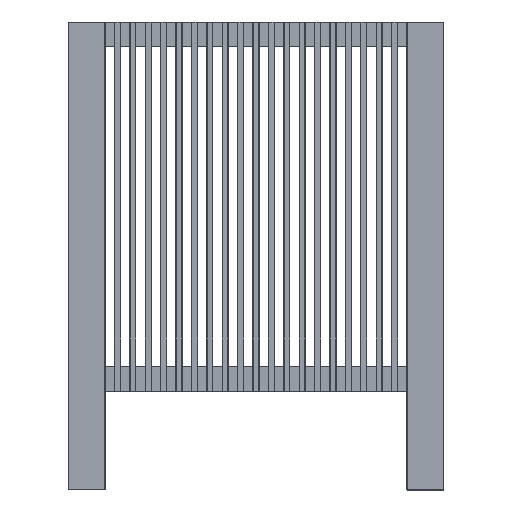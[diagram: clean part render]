
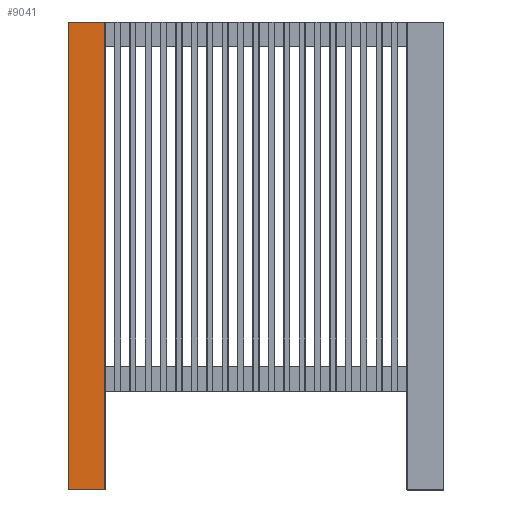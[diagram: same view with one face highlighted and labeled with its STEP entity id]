
A CAD part, top view. The second image highlights one B-rep face of the part: STEP entity #9041.
In plain terms, the highlighted planar face has unit normal (0, 0, 1).
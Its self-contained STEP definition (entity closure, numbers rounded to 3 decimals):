
#492 = AXIS2_PLACEMENT_3D ( 'NONE', #11524, #11525, #11526 ) ;
#1046 = EDGE_CURVE ( 'NONE', #4397, #4389, #10690, .T. ) ;
#1047 = EDGE_CURVE ( 'NONE', #4401, #4397, #10686, .T. ) ;
#1048 = EDGE_CURVE ( 'NONE', #7379, #4401, #10609, .T. ) ;
#1049 = EDGE_CURVE ( 'NONE', #4389, #7379, #10892, .T. ) ;
#1422 = EDGE_LOOP ( 'NONE', ( #2107, #2174, #2104, #2185 ) ) ;
#2104 = ORIENTED_EDGE ( 'NONE', *, *, #1047, .T. ) ;
#2107 = ORIENTED_EDGE ( 'NONE', *, *, #1049, .T. ) ;
#2174 = ORIENTED_EDGE ( 'NONE', *, *, #1048, .T. ) ;
#2185 = ORIENTED_EDGE ( 'NONE', *, *, #1046, .T. ) ;
#4101 = CARTESIAN_POINT ( 'NONE',  ( 0.5, 759.5, 60. ) ) ;
#4389 = VERTEX_POINT ( 'NONE', #9722 ) ;
#4397 = VERTEX_POINT ( 'NONE', #9710 ) ;
#4401 = VERTEX_POINT ( 'NONE', #9707 ) ;
#6945 = FACE_OUTER_BOUND ( 'NONE', #1422, .T. ) ;
#7379 = VERTEX_POINT ( 'NONE', #4101 ) ;
#7705 = CARTESIAN_POINT ( 'NONE',  ( 0., 759.5, 60. ) ) ;
#7711 = DIRECTION ( 'NONE',  ( -1., 0., 0. ) ) ;
#7713 = DIRECTION ( 'NONE',  ( 0., -1., 0. ) ) ;
#7714 = CARTESIAN_POINT ( 'NONE',  ( 0.5, 760., 60. ) ) ;
#7716 = CARTESIAN_POINT ( 'NONE',  ( 0., 0.5, 60. ) ) ;
#7717 = DIRECTION ( 'NONE',  ( 1., 0., 0. ) ) ;
#7719 = DIRECTION ( 'NONE',  ( 0., 1., 0. ) ) ;
#7720 = CARTESIAN_POINT ( 'NONE',  ( 59.5, 760., 60. ) ) ;
#9041 = ADVANCED_FACE ( 'NONE', ( #6945 ), #11523, .F. ) ;
#9707 = CARTESIAN_POINT ( 'NONE',  ( 0.5, 0.5, 60. ) ) ;
#9710 = CARTESIAN_POINT ( 'NONE',  ( 59.5, 0.5, 60. ) ) ;
#9722 = CARTESIAN_POINT ( 'NONE',  ( 59.5, 759.5, 60. ) ) ;
#10609 = LINE ( 'NONE', #7714, #10739 ) ;
#10622 = VECTOR ( 'NONE', #7719, 1000. ) ;
#10686 = LINE ( 'NONE', #7716, #10763 ) ;
#10690 = LINE ( 'NONE', #7720, #10622 ) ;
#10739 = VECTOR ( 'NONE', #7713, 1000. ) ;
#10763 = VECTOR ( 'NONE', #7717, 1000. ) ;
#10892 = LINE ( 'NONE', #7705, #10916 ) ;
#10916 = VECTOR ( 'NONE', #7711, 1000. ) ;
#11523 = PLANE ( 'NONE',  #492 ) ;
#11524 = CARTESIAN_POINT ( 'NONE',  ( 0., 760., 60. ) ) ;
#11525 = DIRECTION ( 'NONE',  ( 0., 0., -1. ) ) ;
#11526 = DIRECTION ( 'NONE',  ( -1., 0., 0. ) ) ;
